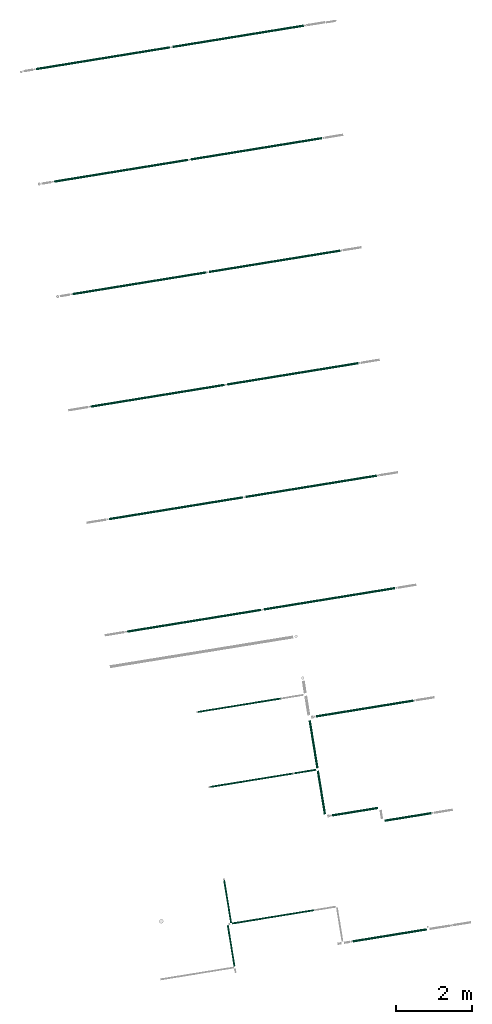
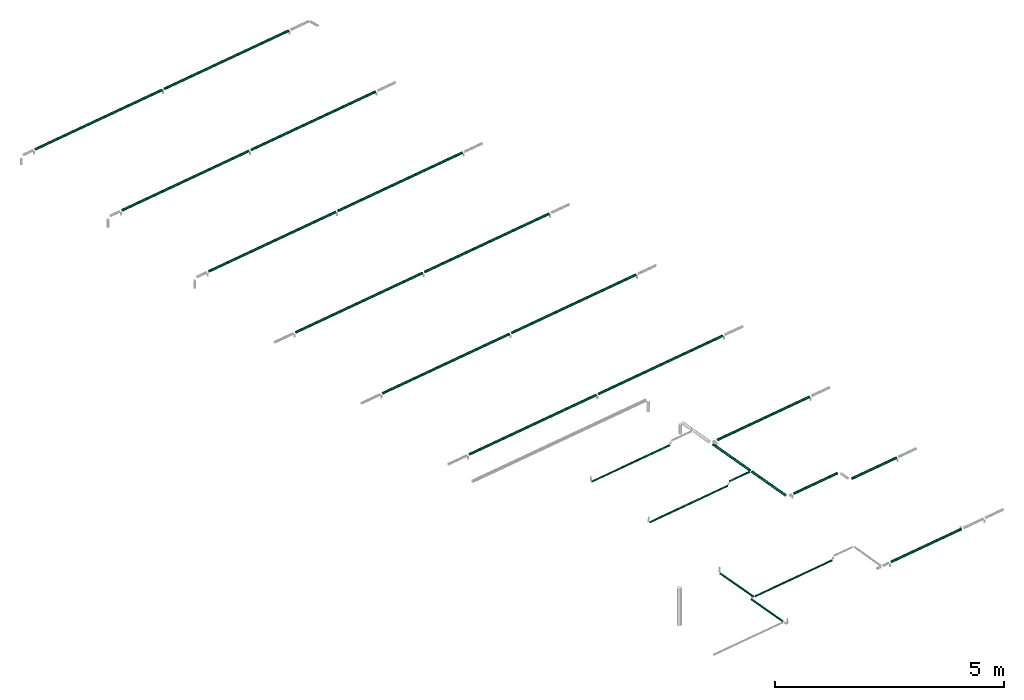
# One storey, part 1 of 10: 24 flow segments.
"""IFC2X3 building model written with IfcOpenShell, lengths in millimetres."""

from ifc_helpers import new_model, entity, si_unit, converted_unit, derived_unit, direction, frame, frame_2d, origin, origin_with_axes, origin_2d_with_axis, place, context, subcontext, project, spatial, circle, extrude, type_object, element, save


model = new_model("IFC2X3")

# Units and contexts
plan_context = context("Plan", 3, precision=1e-05, world=origin_with_axes())
model_context = context("Model", 3, precision=0.01, world=origin(), true_north=direction((6.12323399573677e-17, 1.0)))
body_context = subcontext(model_context, "Body", "Model", "MODEL_VIEW")
ifc_project = project(units=[converted_unit("PLANEANGLEUNIT", "DEGREE", entity("IfcPositiveLengthMeasure", 0.0174532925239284), si_unit("PLANEANGLEUNIT", "RADIAN"), dimensions=[0, 0, 0, 0, 0, 0, 0]), si_unit("AREAUNIT", "SQUARE_METRE"), si_unit("LENGTHUNIT", "METRE", prefix="MILLI"), si_unit("MASSUNIT", "GRAM", prefix="KILO"), si_unit("POWERUNIT", "WATT"), si_unit("PRESSUREUNIT", "PASCAL", prefix="KILO"), si_unit("FORCEUNIT", "NEWTON", prefix="KILO"), si_unit("ELECTRICVOLTAGEUNIT", "VOLT"), si_unit("ELECTRICCURRENTUNIT", "AMPERE"), si_unit("THERMODYNAMICTEMPERATUREUNIT", "DEGREE_CELSIUS"), si_unit("TIMEUNIT", "SECOND"), si_unit("VOLUMEUNIT", "CUBIC_METRE"), derived_unit("LINEARVELOCITYUNIT", [(si_unit("LENGTHUNIT", "METRE"), 1), (si_unit("TIMEUNIT", "SECOND"), -1)]), derived_unit("VOLUMETRICFLOWRATEUNIT", [(si_unit("VOLUMEUNIT", "CUBIC_METRE"), 1), (si_unit("TIMEUNIT", "SECOND"), -1)]), derived_unit("THERMALTRANSMITTANCEUNIT", [(si_unit("POWERUNIT", "WATT"), 1), (si_unit("THERMODYNAMICTEMPERATUREUNIT", "KELVIN"), -1), (si_unit("AREAUNIT", "SQUARE_METRE"), -1)]), derived_unit("SOUNDPRESSUREUNIT", [(si_unit("PRESSUREUNIT", "PASCAL"), 1)])], contexts=[model_context, plan_context])

# Site, building, storey
site_placement = place(None, frame((-0.00071070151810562, 0.00438415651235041, 0.0), z_axis=(0.0, 0.0, 1.0), x_axis=(-0.160236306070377, 0.987078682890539, 0.0)))
site = spatial("IfcSite", under=ifc_project, at=site_placement, Name="Default", CompositionType="ELEMENT")
building_placement = place(site_placement, origin_with_axes())
building = spatial("IfcBuilding", under=site, at=building_placement, CompositionType="ELEMENT")
storey_placement = place(building_placement, frame((0.0, 0.0, 55630.0), z_axis=(0.0, 0.0, 1.0), x_axis=(1.0, 0.0, 0.0)))
storey = spatial("IfcBuildingStorey", under=building, at=storey_placement, Name="Nivå E", CompositionType="ELEMENT", Elevation=55630.0)

# Flow segments
pipe_segment_type = type_object("IfcPipeSegmentType", Name="Pipe Types:Stålrør normaltykke", PredefinedType="NOTDEFINED")
flow_segment_1_placement = place(storey_placement, origin_with_axes())
element("IfcFlowSegment", 1, at=flow_segment_1_placement, inside=storey, type_object=pipe_segment_type, Name="Pipe Types:Stålrør normaltykke", ObjectType="Pipe Types:Stålrør normaltykke", context=body_context, shape_type="SweptSolid", body=[
    extrude(circle(Radius=30.1499996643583, at=origin_2d_with_axis()), frame((763377.619644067, -508031.44440294, 2600.0), z_axis=(0.0, 1.0, 0.0), x_axis=(1.0, 0.0, 0.0)), (0.0, 0.0, 1.0), 1979.16716042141),
])
flow_segment_2_placement = place(storey_placement, origin_with_axes())
element("IfcFlowSegment", 2, at=flow_segment_2_placement, inside=storey, type_object=pipe_segment_type, Name="Pipe Types:Stålrør normaltykke", ObjectType="Pipe Types:Stålrør normaltykke", context=body_context, shape_type="SweptSolid", body=[
    extrude(circle(Radius=30.1499996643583, at=origin_2d_with_axis()), frame((766737.619644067, -507271.877242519, 2600.0), z_axis=(0.0, 1.0, 0.0), x_axis=(1.0, 0.0, 0.0)), (0.0, 0.0, 1.0), 1219.59999999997),
])
flow_segment_3_placement = place(storey_placement, origin_with_axes())
element("IfcFlowSegment", 3, at=flow_segment_3_placement, inside=storey, type_object=pipe_segment_type, Name="Pipe Types:Stålrør normaltykke", ObjectType="Pipe Types:Stålrør normaltykke", context=body_context, shape_type="SweptSolid", body=[
    extrude(circle(Radius=30.1499996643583, at=origin_2d_with_axis()), frame((769377.619644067, -508644.677242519, 2600.0), z_axis=(0.0, 1.0, 0.0), x_axis=(1.0, 0.0, 0.0)), (0.0, 0.0, 1.0), 2592.4),
])
flow_segment_4_placement = place(storey_placement, origin_with_axes())
element("IfcFlowSegment", 4, at=flow_segment_4_placement, inside=storey, type_object=pipe_segment_type, Name="Pipe Types:Stålrør normaltykke", ObjectType="Pipe Types:Stålrør normaltykke", context=body_context, shape_type="SweptSolid", body=[
    extrude(circle(Radius=30.1499996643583, at=origin_2d_with_axis()), frame((772377.619644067, -508644.677242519, 2600.0), z_axis=(0.0, 1.0, 0.0), x_axis=(1.0, 0.0, 0.0)), (0.0, 0.0, 1.0), 3502.40000000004),
])
flow_segment_5_placement = place(storey_placement, origin_with_axes())
element("IfcFlowSegment", 5, at=flow_segment_5_placement, inside=storey, type_object=pipe_segment_type, Name="Pipe Types:Stålrør normaltykke", ObjectType="Pipe Types:Stålrør normaltykke", context=body_context, shape_type="SweptSolid", body=[
    extrude(circle(Radius=30.1499996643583, at=origin_2d_with_axis()), frame((772377.619644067, -505074.677242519, 2600.0), z_axis=(0.0, 1.0, 0.0), x_axis=(1.0, 0.0, 0.0)), (0.0, 0.0, 1.0), 3572.39999999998),
])
flow_segment_6_placement = place(storey_placement, origin_with_axes())
element("IfcFlowSegment", 6, at=flow_segment_6_placement, inside=storey, type_object=pipe_segment_type, Name="Pipe Types:Stålrør normaltykke", ObjectType="Pipe Types:Stålrør normaltykke", context=body_context, shape_type="SweptSolid", body=[
    extrude(circle(Radius=30.1499996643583, at=origin_2d_with_axis()), frame((775377.619644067, -508644.677242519, 2600.0), z_axis=(0.0, 1.0, 0.0), x_axis=(1.0, 0.0, 0.0)), (0.0, 0.0, 1.0), 3502.39999999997),
])
flow_segment_7_placement = place(storey_placement, origin_with_axes())
element("IfcFlowSegment", 7, at=flow_segment_7_placement, inside=storey, type_object=pipe_segment_type, Name="Pipe Types:Stålrør normaltykke", ObjectType="Pipe Types:Stålrør normaltykke", context=body_context, shape_type="SweptSolid", body=[
    extrude(circle(Radius=30.1499996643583, at=origin_2d_with_axis()), frame((775377.619644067, -505074.677242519, 2600.0), z_axis=(0.0, 1.0, 0.0), x_axis=(1.0, 0.0, 0.0)), (0.0, 0.0, 1.0), 3572.39999999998),
])
flow_segment_8_placement = place(storey_placement, origin_with_axes())
element("IfcFlowSegment", 8, at=flow_segment_8_placement, inside=storey, type_object=pipe_segment_type, Name="Pipe Types:Stålrør normaltykke", ObjectType="Pipe Types:Stålrør normaltykke", context=body_context, shape_type="SweptSolid", body=[
    extrude(circle(Radius=30.1499996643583, at=origin_2d_with_axis()), frame((778377.619644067, -508644.677242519, 2600.0), z_axis=(0.0, 1.0, 0.0), x_axis=(1.0, 0.0, 0.0)), (0.0, 0.0, 1.0), 3502.40000000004),
])
flow_segment_9_placement = place(storey_placement, origin_with_axes())
element("IfcFlowSegment", 9, at=flow_segment_9_placement, inside=storey, type_object=pipe_segment_type, Name="Pipe Types:Stålrør normaltykke", ObjectType="Pipe Types:Stålrør normaltykke", context=body_context, shape_type="SweptSolid", body=[
    extrude(circle(Radius=30.1499996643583, at=origin_2d_with_axis()), frame((778377.619644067, -505074.677242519, 2600.0), z_axis=(0.0, 1.0, 0.0), x_axis=(1.0, 0.0, 0.0)), (0.0, 0.0, 1.0), 3572.39999999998),
])
flow_segment_10_placement = place(storey_placement, origin_with_axes())
element("IfcFlowSegment", 10, at=flow_segment_10_placement, inside=storey, type_object=pipe_segment_type, Name="Pipe Types:Stålrør normaltykke", ObjectType="Pipe Types:Stålrør normaltykke", context=body_context, shape_type="SweptSolid", body=[
    extrude(circle(Radius=30.1499996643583, at=origin_2d_with_axis()), frame((781377.619644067, -508644.677242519, 2600.0), z_axis=(0.0, 1.0, 0.0), x_axis=(1.0, 0.0, 0.0)), (0.0, 0.0, 1.0), 3502.40000000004),
])
flow_segment_11_placement = place(storey_placement, origin_with_axes())
element("IfcFlowSegment", 11, at=flow_segment_11_placement, inside=storey, type_object=pipe_segment_type, Name="Pipe Types:Stålrør normaltykke", ObjectType="Pipe Types:Stålrør normaltykke", context=body_context, shape_type="SweptSolid", body=[
    extrude(circle(Radius=30.1499996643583, at=origin_2d_with_axis()), frame((781377.619644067, -505074.677242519, 2600.0), z_axis=(0.0, 1.0, 0.0), x_axis=(1.0, 0.0, 0.0)), (0.0, 0.0, 1.0), 3572.39999999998),
])
flow_segment_12_placement = place(storey_placement, origin_with_axes())
element("IfcFlowSegment", 12, at=flow_segment_12_placement, inside=storey, type_object=pipe_segment_type, Name="Pipe Types:Stålrør normaltykke", ObjectType="Pipe Types:Stålrør normaltykke", context=body_context, shape_type="SweptSolid", body=[
    extrude(circle(Radius=30.1499996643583, at=origin_2d_with_axis()), frame((784377.619644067, -508644.677242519, 2600.0), z_axis=(0.0, 1.0, 0.0), x_axis=(1.0, 0.0, 0.0)), (0.0, 0.0, 1.0), 3502.40000000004),
])
flow_segment_13_placement = place(storey_placement, origin_with_axes())
element("IfcFlowSegment", 13, at=flow_segment_13_placement, inside=storey, type_object=pipe_segment_type, Name="Pipe Types:Stålrør normaltykke", ObjectType="Pipe Types:Stålrør normaltykke", context=body_context, shape_type="SweptSolid", body=[
    extrude(circle(Radius=30.1499996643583, at=origin_2d_with_axis()), frame((784377.619644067, -505074.677242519, 2600.0), z_axis=(0.0, 1.0, 0.0), x_axis=(1.0, 0.0, 0.0)), (0.0, 0.0, 1.0), 3572.39999999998),
])
flow_segment_14_placement = place(storey_placement, origin_with_axes())
element("IfcFlowSegment", 14, at=flow_segment_14_placement, inside=storey, type_object=pipe_segment_type, Name="Pipe Types:Stålrør normaltykke", ObjectType="Pipe Types:Stålrør normaltykke", context=body_context, shape_type="SweptSolid", body=[
    extrude(circle(Radius=30.1499996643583, at=origin_2d_with_axis()), frame((787377.619644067, -508644.677242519, 2600.0), z_axis=(0.0, 1.0, 0.0), x_axis=(1.0, 0.0, 0.0)), (0.0, 0.0, 1.0), 3502.40000000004),
])
flow_segment_15_placement = place(storey_placement, origin_with_axes())
element("IfcFlowSegment", 15, at=flow_segment_15_placement, inside=storey, type_object=pipe_segment_type, Name="Pipe Types:Stålrør normaltykke", ObjectType="Pipe Types:Stålrør normaltykke", context=body_context, shape_type="SweptSolid", body=[
    extrude(circle(Radius=30.1499996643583, at=origin_2d_with_axis()), frame((768024.996595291, -505868.371366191, 2600.0), z_axis=(1.0, 0.0, 0.0), x_axis=(0.0, -1.0, 0.0)), (0.0, 0.0, 1.0), 1276.42304877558),
])
flow_segment_16_placement = place(storey_placement, origin_with_axes())
element("IfcFlowSegment", 16, at=flow_segment_16_placement, inside=storey, type_object=pipe_segment_type, Name="Pipe Types:Stålrør normaltykke", ObjectType="Pipe Types:Stålrør normaltykke", context=body_context, shape_type="SweptSolid", body=[
    extrude(circle(Radius=16.8500004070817, at=origin_2d_with_axis()), frame((767991.196595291, -505823.071366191, 2600.0), z_axis=(0.0, 1.0, 0.0), x_axis=(1.0, 0.0, 0.0)), (0.0, 0.0, 1.0), 563.212319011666),
])
flow_segment_17_placement = place(storey_placement, origin_with_axes())
element("IfcFlowSegment", 17, at=flow_segment_17_placement, inside=storey, type_object=pipe_segment_type, Name="Pipe Types:Stålrør normaltykke", ObjectType="Pipe Types:Stålrør normaltykke", context=body_context, shape_type="SweptSolid", body=[
    extrude(circle(Radius=30.1499996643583, at=origin_2d_with_axis()), frame((766798.019644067, -505868.371366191, 2600.0), z_axis=(1.0, 0.0, 0.0), x_axis=(0.0, -1.0, 0.0)), (0.0, 0.0, 1.0), 1159.37695122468),
])
flow_segment_18_placement = place(storey_placement, origin_with_axes())
element("IfcFlowSegment", 18, at=flow_segment_18_placement, inside=storey, type_object=pipe_segment_type, Name="Pipe Types:Stålrør normaltykke", ObjectType="Pipe Types:Stålrør normaltykke", context=body_context, shape_type="SweptSolid", body=[
    extrude(circle(Radius=16.8500004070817, at=origin_2d_with_axis()), frame((767991.196595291, -505200.709047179, 2500.0), z_axis=(0.0, 1.0, 0.0), x_axis=(1.0, 0.0, 0.0)), (0.0, 0.0, 1.0), 2186.92854864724),
])
flow_segment_19_placement = place(storey_placement, origin_with_axes())
element("IfcFlowSegment", 19, at=flow_segment_19_placement, inside=storey, type_object=pipe_segment_type, Name="Pipe Types:Stålrør normaltykke", ObjectType="Pipe Types:Stålrør normaltykke", context=body_context, shape_type="SweptSolid", body=[
    extrude(circle(Radius=16.8500004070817, at=origin_2d_with_axis()), frame((769991.196595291, -505201.387013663, 2500.0), z_axis=(0.0, 1.0, 0.0), x_axis=(1.0, 0.0, 0.0)), (0.0, 0.0, 1.0), 2187.6065151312),
])
flow_segment_20_placement = place(storey_placement, origin_with_axes())
element("IfcFlowSegment", 20, at=flow_segment_20_placement, inside=storey, type_object=pipe_segment_type, Name="Pipe Types:Stålrør normaltykke", ObjectType="Pipe Types:Stålrør normaltykke", context=body_context, shape_type="SweptSolid", body=[
    extrude(circle(Radius=16.8500004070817, at=frame_2d((6.93034962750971e-11, -8.66293703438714e-12), x_axis=(1.0, 0.0))), frame((763234.468124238, -502877.317550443, 2500.0), z_axis=(1.0, 0.0, 0.0), x_axis=(0.0, 1.0, 0.0)), (0.0, 0.0, 1.0), 1082.48442541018),
])
flow_segment_21_placement = place(storey_placement, origin_with_axes())
element("IfcFlowSegment", 21, at=flow_segment_21_placement, inside=storey, type_object=pipe_segment_type, Name="Pipe Types:Stålrør normaltykke", ObjectType="Pipe Types:Stålrør normaltykke", context=body_context, shape_type="SweptSolid", body=[
    extrude(circle(Radius=16.8500004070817, at=origin_2d_with_axis()), frame((764350.752549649, -505173.871414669, 2500.0), z_axis=(0.0, 1.0, 0.0), x_axis=(-1.0, 0.0, 0.0)), (0.0, 0.0, 1.0), 2167.5909161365),
])
flow_segment_22_placement = place(storey_placement, origin_with_axes())
element("IfcFlowSegment", 22, at=flow_segment_22_placement, inside=storey, type_object=pipe_segment_type, Name="Pipe Types:Stålrør normaltykke", ObjectType="Pipe Types:Stålrør normaltykke", context=body_context, shape_type="SweptSolid", body=[
    extrude(circle(Radius=30.1499996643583, at=origin_2d_with_axis()), frame((787377.619644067, -505074.677242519, 2600.0), z_axis=(0.0, 1.0, 0.0), x_axis=(1.0, 0.0, 0.0)), (0.0, 0.0, 1.0), 3572.39999999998),
])
flow_segment_23_placement = place(storey_placement, origin_with_axes())
element("IfcFlowSegment", 23, at=flow_segment_23_placement, inside=storey, type_object=pipe_segment_type, Name="Pipe Types:Stålrør normaltykke", ObjectType="Pipe Types:Stålrør normaltykke", context=body_context, shape_type="SweptSolid", body=[
    extrude(circle(Radius=30.1499996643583, at=origin_2d_with_axis()), frame((766377.619644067, -508644.677242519, 2600.0), z_axis=(0.0, 1.0, 0.0), x_axis=(1.0, 0.0, 0.0)), (0.0, 0.0, 1.0), 1251.99999999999),
])
flow_segment_24_placement = place(storey_placement, origin_with_axes())
element("IfcFlowSegment", 24, at=flow_segment_24_placement, inside=storey, type_object=pipe_segment_type, Name="Pipe Types:Stålrør normaltykke", ObjectType="Pipe Types:Stålrør normaltykke", context=body_context, shape_type="SweptSolid", body=[
    extrude(circle(Radius=16.8500004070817, at=origin_2d_with_axis()), frame((764376.102549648, -502972.480498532, 2500.0), z_axis=(1.0, 0.0, 0.0), x_axis=(0.0, -1.0, 0.0)), (0.0, 0.0, 1.0), 1125.52538931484),
])

save(model, "model.ifc")
